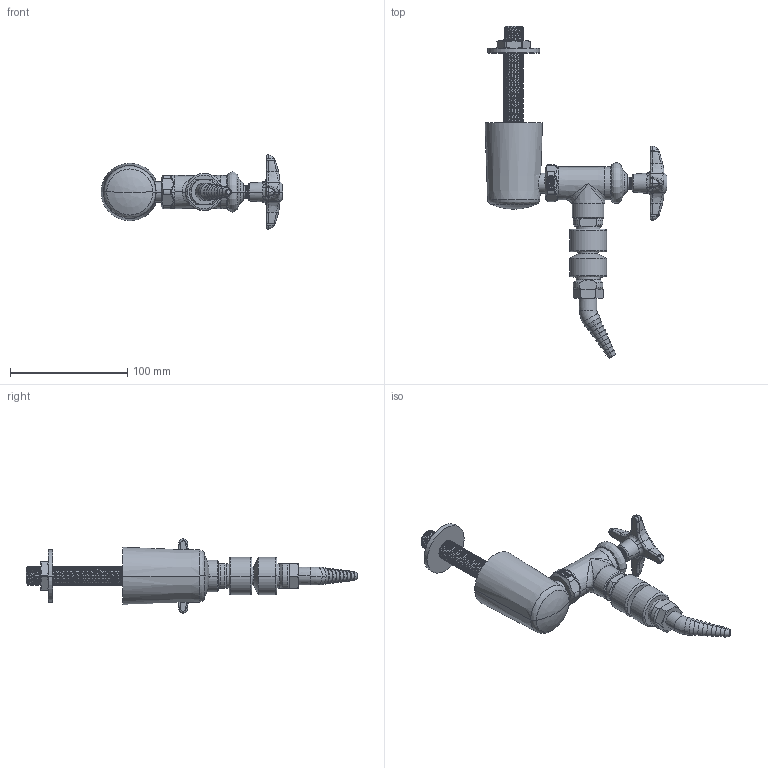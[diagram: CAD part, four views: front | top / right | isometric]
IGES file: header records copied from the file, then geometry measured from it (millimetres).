
Start section:  PTC IGES file: LWV2-C54-10.igs
Global section: file name: LWV2-C54-10.igs; native system: Creo Parametric by PTC Inc.; preprocessor: 2014500; author: usch_engrender; organization: Unknown; date: 20151113.094254; units: inch
Bounding box: 155.27 x 283.24 x 63.41 mm (x, y, z)
Volume: 237640.5 mm3; surface area: 56766.6 mm2
Topology: 1 solids, 3 shells, 808 faces, 1923 edges, 1152 vertices
Faces by surface type: revolution 410, bspline 398
